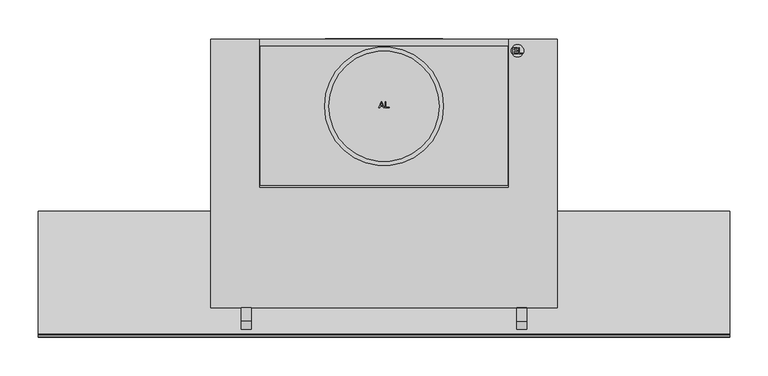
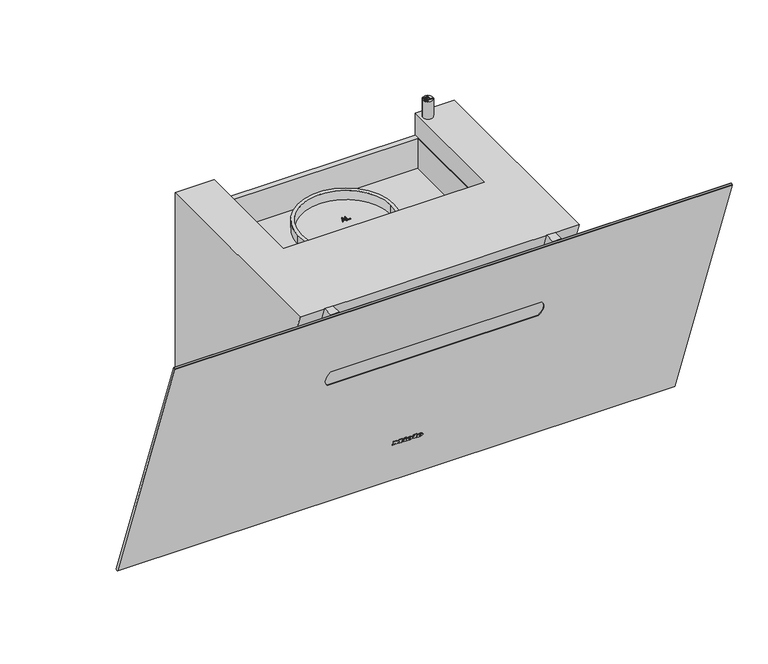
"""IFC4 building model written with IfcOpenShell, lengths in millimetres: proxy geometry, 12555220_TR_DAH1950_OBSW : 28H1950B_TR_12555220_DAH1950_OBSW."""

from ifc_helpers import new_model, si_unit, point, frame, frame_2d, origin, origin_with_axes, place, context, project, spatial, polyline, circle_curve, ellipse_curve, trimmed, segment, composite_curve, outline, extrude, faceted_brep, source, transform, mapped, element, save
from ifc_brep_helpers import plane_surface, cylinder_surface, revolved_surface, extruded_surface, advanced_brep


def specialty_equipment_6f24df0f(model_context):
    return source(origin(), model_context, "Body", "SolidModel", [
        extrude(outline(polyline([(0.0, 0.0), (0.968, 0.0), (0.968, 5.352), (0.0, 5.352), (0.0, 6.696), (3.52, 6.696), (3.52, 5.352), (2.56, 5.352), (2.56, 1.9488753), (6.136, 6.696), (9.728, 1.8807777), (9.728, 5.352), (8.744, 5.352), (8.744, 6.696), (15.128, 6.696), (15.128, 5.352), (14.112, 5.352), (14.112, 0.0), (15.128, 0.0), (15.128, -1.304), (10.256, -1.304), (7.92, 1.696), (5.576, -1.304), (0.0, -1.304), (0.0, 0.0)])), frame((-24.271984, -261.1380975, 82.2921818), z_axis=(0.0, 0.9396926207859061, 0.34202014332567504), x_axis=(1.0, 0.0, 0.0)), (0.0, 0.0, 1.0), 1.0),
        extrude(outline(polyline([(0.0, 0.0), (0.96, 0.0), (0.96, 5.352), (0.0, 5.352), (0.0, 6.696), (6.488, 6.696), (6.488, 5.352), (5.504, 5.352), (5.504, -1.304), (0.0, -1.304), (0.0, 0.0)])), frame((8.192016, -261.1380975, 82.2921818), z_axis=(0.0, 0.9396926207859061, 0.34202014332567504), x_axis=(1.0, 0.0, 0.0)), (0.0, 0.0, 1.0), 1.0),
        extrude(outline(polyline([(0.0, 0.0), (1.4315306, 0.0), (1.4390414, -2.9920869), (0.0109086, -2.9993294), (0.0, 0.0)])), frame((-6.351984, -261.4226582, 83.074006), z_axis=(0.0, 0.9396926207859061, 0.342020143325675), x_axis=(0.42472021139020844, 0.30963927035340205, -0.8507269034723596)), (0.0, 0.0, 1.0), 1.0),
        extrude(outline(polyline([(0.4933907, 2.4141097), (1.7898156, 3.022309), (2.1941493, 2.1604399), (5.1636141, 3.5535222), (4.7592805, 4.4153913), (5.9760369, 4.9862153), (8.6568708, -0.728194), (7.4401145, -1.299018), (7.0459741, -0.4588767), (2.7800843, -2.4601583), (0.4933907, 2.4141097)])), frame((-6.351984, -261.4226582, 83.074006), z_axis=(0.0, 0.9396926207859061, 0.342020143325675), x_axis=(0.42472021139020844, 0.30963927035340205, -0.8507269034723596)), (0.0, 0.0, 1.0), 1.0),
        advanced_brep(
        [(2.392016, -259.4964008, 77.7816572), (2.392016, -259.7727531, 78.5409288), (7.744016, -259.7727531, 78.5409288), (-1.567984, -259.7727531, 78.5409288), (0.632016, -258.8479306, 76.0), (7.608016, -259.4964008, 77.7816572), (5.192016, -259.4964008, 77.7816572), (3.288016, -259.1899507, 76.9396926), (2.392016, -260.1229817, 79.5031741), (2.392016, -260.4212233, 80.3225861), (3.760016, -260.4212233, 80.3225861), (3.760016, -260.1229817, 79.5031741), (2.392016, -258.5567082, 78.1236774), (3.288016, -258.2502581, 77.2817128), (5.192016, -258.5567082, 78.1236774), (7.608016, -258.5567082, 78.1236774), (0.632016, -257.908238, 76.3420201), (-1.567984, -258.8330604, 78.882949), (7.744016, -258.8330604, 78.882949), (2.392016, -258.8330604, 78.882949), (2.392016, -259.1832891, 79.8451942), (3.760016, -259.1832891, 79.8451942), (3.760016, -259.4815306, 80.6646062), (2.392016, -259.4815306, 80.6646062)],
        [
            (0, 1),
            (1, 2),
            (2, 3, ellipse_curve(frame((3.088016, -259.7727531, 78.5409288), z_axis=(0.0, -0.9396926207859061, -0.34202014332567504), x_axis=(-1.0, 0.0, 0.0)), 4.656, 3.848)),
            (3, 4, circle_curve(frame((1.5280596, -259.8657825, 78.7965252), z_axis=(0.0, -0.9396926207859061, -0.34202014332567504), x_axis=(0.0, 0.34202014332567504, -0.9396926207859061)), 3.1079688)),
            (4, 5, circle_curve(frame((2.9948096, -260.5881291, 80.7811561), z_axis=(0.0, -0.9396926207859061, -0.34202014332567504), x_axis=(0.0, 0.34202014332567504, -0.9396926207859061)), 5.6098607)),
            (5, 6),
            (6, 7, circle_curve(frame((3.6790748, -259.7508638, 78.4807885), z_axis=(0.0, 0.9396926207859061, 0.34202014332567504), x_axis=(0.0, 0.34202014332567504, -0.9396926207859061)), 1.6859795)),
            (7, 0, circle_curve(frame((3.288016, -259.4964008, 77.7816572), z_axis=(0.0, 0.9396926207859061, 0.34202014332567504), x_axis=(0.0, 0.34202014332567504, -0.9396926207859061)), 0.896)),
            (8, 9),
            (9, 10, circle_curve(frame((3.076016, -260.4212233, 80.3225861), z_axis=(0.0, 0.9396926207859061, 0.34202014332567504), x_axis=(0.0, 0.34202014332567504, -0.9396926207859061)), 0.684)),
            (10, 11),
            (11, 8),
            (12, 13, circle_curve(frame((3.288016, -258.5567082, 78.1236774), z_axis=(0.0, -0.9396926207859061, -0.34202014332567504), x_axis=(0.0, 0.34202014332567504, -0.9396926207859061)), 0.896)),
            (13, 14, circle_curve(frame((3.6790748, -258.8111712, 78.8228087), z_axis=(0.0, -0.9396926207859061, -0.34202014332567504), x_axis=(0.0, 0.34202014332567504, -0.9396926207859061)), 1.6859795)),
            (14, 15),
            (15, 16, circle_curve(frame((2.9948096, -259.6484365, 81.1231762), z_axis=(0.0, 0.9396926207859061, 0.34202014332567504), x_axis=(0.0, 0.34202014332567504, -0.9396926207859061)), 5.6098607)),
            (16, 17, circle_curve(frame((1.5280596, -258.9260899, 79.1385454), z_axis=(0.0, 0.9396926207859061, 0.34202014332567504), x_axis=(0.0, 0.34202014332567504, -0.9396926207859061)), 3.1079688)),
            (17, 18, ellipse_curve(frame((3.088016, -258.8330604, 78.882949), z_axis=(0.0, 0.9396926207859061, 0.34202014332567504), x_axis=(-1.0, 0.0, 0.0)), 4.656, 3.848)),
            (18, 19),
            (19, 12),
            (20, 21),
            (21, 22),
            (22, 23, circle_curve(frame((3.076016, -259.4815306, 80.6646062), z_axis=(0.0, -0.9396926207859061, -0.34202014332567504), x_axis=(0.0, 0.34202014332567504, -0.9396926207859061)), 0.684)),
            (23, 20),
            (0, 12),
            (19, 1),
            (18, 2),
            (5, 15),
            (14, 6),
            (17, 3),
            (13, 7),
            (16, 4),
            (8, 20),
            (23, 9),
            (22, 10),
            (21, 11),
        ],
        [
            plane_surface(frame((2.392016, -259.7727531, 78.5409288), z_axis=(0.0, -0.9396926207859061, -0.34202014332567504), x_axis=(0.0, -0.34202014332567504, 0.9396926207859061))),
            plane_surface(frame((2.392016, -258.8330604, 78.882949), z_axis=(0.0, 0.9396926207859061, 0.34202014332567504), x_axis=(0.0, 0.34202014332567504, -0.9396926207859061))),
            plane_surface(frame((2.392016, -259.4964008, 77.7816572), z_axis=(1.0, 0.0, 0.0), x_axis=(0.0, 0.9396926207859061, 0.34202014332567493))),
            plane_surface(frame((2.392016, -259.7727531, 78.5409288), z_axis=(0.0, 0.34202014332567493, -0.9396926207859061), x_axis=(0.0, 0.9396926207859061, 0.34202014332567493))),
            plane_surface(frame((7.608016, -259.4964008, 77.7816572), z_axis=(0.0, -0.34202014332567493, 0.9396926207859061), x_axis=(0.0, 0.9396926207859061, 0.34202014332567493))),
            extruded_surface(trimmed(ellipse_curve(frame((3.088016, -257.8933678, 79.2249691), z_axis=(0.0, -0.9396926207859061, -0.34202014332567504), x_axis=(-1.0, 0.0, 0.0)), 4.656, 3.848), [point((7.744016, -257.8933678, 79.2249691))], [point((-1.567984, -257.8933678, 79.2249691))], True, "CARTESIAN"), (0.0, -0.9396926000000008, -0.34202009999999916), 0.9999999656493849),
            revolved_surface(polyline([(3.6790748, -258.2345321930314, 77.23850622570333), (3.6790748, -259.1742248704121, 76.89648606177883)]), (3.6790748, -258.8111712, 78.8228087), (0.0, 0.9396926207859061, 0.34202014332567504)),
            revolved_surface(polyline([(3.288016, -258.25025810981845, 77.28171282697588), (3.288016, -259.1899507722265, 76.93969266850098)]), (3.288016, -258.5567082, 78.1236774), (0.0, 0.9396926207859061, 0.34202014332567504)),
            cylinder_surface(frame((1.5280596, -258.9260899, 79.1385454), z_axis=(0.0, -0.9396926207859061, -0.34202014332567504), x_axis=(0.0, 0.34202014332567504, -0.9396926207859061)), 3.1079688),
            cylinder_surface(frame((2.9948096, -259.6484365, 81.1231762), z_axis=(0.0, -0.9396926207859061, -0.34202014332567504), x_axis=(0.0, 0.34202014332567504, -0.9396926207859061)), 5.6098607),
            plane_surface(frame((2.392016, -260.1229817, 79.5031741), z_axis=(1.0, 0.0, 0.0), x_axis=(0.0, 0.9396926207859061, 0.34202014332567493))),
            revolved_surface(polyline([(3.076016, -259.2475888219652, 80.02185644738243), (3.076016, -260.1872814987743, 79.67983628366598)]), (3.076016, -259.4815306, 80.6646062), (0.0, 0.9396926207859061, 0.34202014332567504)),
            plane_surface(frame((3.760016, -260.4212233, 80.3225861), z_axis=(-1.0, 0.0, 0.0), x_axis=(0.0, 0.9396926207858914, 0.3420201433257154))),
            plane_surface(frame((3.760016, -260.1229817, 79.5031741), z_axis=(0.0, -0.34202014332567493, 0.9396926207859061), x_axis=(0.0, 0.9396926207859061, 0.34202014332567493))),
        ],
        [
            (0, [[1, 2, 3, 4, 5, 6, 7, 8], [9, 10, 11, 12]]),
            (1, [[13, 14, 15, 16, 17, 18, 19, 20], [21, 22, 23, 24]]),
            (2, [[-1, 25, -20, 26]]),
            (3, [[-2, -26, -19, 27]]),
            (4, [[-6, 28, -15, 29]]),
            (5, [[-3, -27, -18, 30]]),
            (6, [[-7, -29, -14, 31]]),
            (7, [[-8, -31, -13, -25]]),
            (8, [[-4, -30, -17, 32]]),
            (9, [[-5, -32, -16, -28]]),
            (10, [[-9, 33, -24, 34]]),
            (11, [[-10, -34, -23, 35]]),
            (12, [[-11, -35, -22, 36]]),
            (13, [[-12, -36, -21, -33]]),
        ],
    ),
        advanced_brep(
        [(19.088016, -259.4964008, 77.7816572), (19.088016, -259.7727531, 78.5409288), (24.440016, -259.7727531, 78.5409288), (15.128016, -259.7727531, 78.5409288), (17.328016, -258.8479306, 76.0), (24.304016, -259.4964008, 77.7816572), (21.888016, -259.4964008, 77.7816572), (19.984016, -259.1899507, 76.9396926), (19.088016, -260.1229817, 79.5031741), (19.088016, -260.4212233, 80.3225861), (20.456016, -260.4212233, 80.3225861), (20.456016, -260.1229817, 79.5031741), (19.088016, -258.5567082, 78.1236774), (19.984016, -258.2502581, 77.2817128), (21.888016, -258.5567082, 78.1236774), (24.304016, -258.5567082, 78.1236774), (17.328016, -257.908238, 76.3420201), (15.128016, -258.8330604, 78.882949), (24.440016, -258.8330604, 78.882949), (19.088016, -258.8330604, 78.882949), (19.088016, -259.1832891, 79.8451942), (20.456016, -259.1832891, 79.8451942), (20.456016, -259.4815306, 80.6646062), (19.088016, -259.4815306, 80.6646062)],
        [
            (0, 1),
            (1, 2),
            (2, 3, ellipse_curve(frame((19.784016, -259.7727531, 78.5409288), z_axis=(0.0, -0.9396926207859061, -0.34202014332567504), x_axis=(-1.0, 0.0, 0.0)), 4.656, 3.848)),
            (3, 4, circle_curve(frame((18.2240596, -259.8657825, 78.7965252), z_axis=(0.0, -0.9396926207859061, -0.34202014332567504), x_axis=(0.0, 0.34202014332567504, -0.9396926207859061)), 3.1079688)),
            (4, 5, circle_curve(frame((19.6908096, -260.5881291, 80.7811561), z_axis=(0.0, -0.9396926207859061, -0.34202014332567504), x_axis=(0.0, 0.34202014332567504, -0.9396926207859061)), 5.6098607)),
            (5, 6),
            (6, 7, circle_curve(frame((20.3750748, -259.7508638, 78.4807885), z_axis=(0.0, 0.9396926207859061, 0.34202014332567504), x_axis=(0.0, 0.34202014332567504, -0.9396926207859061)), 1.6859795)),
            (7, 0, circle_curve(frame((19.984016, -259.4964008, 77.7816572), z_axis=(0.0, 0.9396926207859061, 0.34202014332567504), x_axis=(0.0, 0.34202014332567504, -0.9396926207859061)), 0.896)),
            (8, 9),
            (9, 10, circle_curve(frame((19.772016, -260.4212233, 80.3225861), z_axis=(0.0, 0.9396926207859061, 0.34202014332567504), x_axis=(0.0, 0.34202014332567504, -0.9396926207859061)), 0.684)),
            (10, 11),
            (11, 8),
            (12, 13, circle_curve(frame((19.984016, -258.5567082, 78.1236774), z_axis=(0.0, -0.9396926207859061, -0.34202014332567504), x_axis=(0.0, 0.34202014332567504, -0.9396926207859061)), 0.896)),
            (13, 14, circle_curve(frame((20.3750748, -258.8111712, 78.8228087), z_axis=(0.0, -0.9396926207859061, -0.34202014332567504), x_axis=(0.0, 0.34202014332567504, -0.9396926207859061)), 1.6859795)),
            (14, 15),
            (15, 16, circle_curve(frame((19.6908096, -259.6484365, 81.1231762), z_axis=(0.0, 0.9396926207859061, 0.34202014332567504), x_axis=(0.0, 0.34202014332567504, -0.9396926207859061)), 5.6098607)),
            (16, 17, circle_curve(frame((18.2240596, -258.9260899, 79.1385454), z_axis=(0.0, 0.9396926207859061, 0.34202014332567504), x_axis=(0.0, 0.34202014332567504, -0.9396926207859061)), 3.1079688)),
            (17, 18, ellipse_curve(frame((19.784016, -258.8330604, 78.882949), z_axis=(0.0, 0.9396926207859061, 0.34202014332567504), x_axis=(-1.0, 0.0, 0.0)), 4.656, 3.848)),
            (18, 19),
            (19, 12),
            (20, 21),
            (21, 22),
            (22, 23, circle_curve(frame((19.772016, -259.4815306, 80.6646062), z_axis=(0.0, -0.9396926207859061, -0.34202014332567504), x_axis=(0.0, 0.34202014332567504, -0.9396926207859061)), 0.684)),
            (23, 20),
            (0, 12),
            (19, 1),
            (18, 2),
            (5, 15),
            (14, 6),
            (17, 3),
            (13, 7),
            (16, 4),
            (8, 20),
            (23, 9),
            (22, 10),
            (21, 11),
        ],
        [
            plane_surface(frame((19.088016, -259.7727531, 78.5409288), z_axis=(0.0, -0.9396926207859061, -0.34202014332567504), x_axis=(0.0, -0.34202014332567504, 0.9396926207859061))),
            plane_surface(frame((19.088016, -258.8330604, 78.882949), z_axis=(0.0, 0.9396926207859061, 0.34202014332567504), x_axis=(0.0, 0.34202014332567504, -0.9396926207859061))),
            plane_surface(frame((19.088016, -259.4964008, 77.7816572), z_axis=(1.0, 0.0, 0.0), x_axis=(0.0, 0.9396926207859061, 0.34202014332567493))),
            plane_surface(frame((19.088016, -259.7727531, 78.5409288), z_axis=(0.0, 0.34202014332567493, -0.9396926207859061), x_axis=(0.0, 0.9396926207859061, 0.34202014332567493))),
            plane_surface(frame((24.304016, -259.4964008, 77.7816572), z_axis=(0.0, -0.34202014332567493, 0.9396926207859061), x_axis=(0.0, 0.9396926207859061, 0.34202014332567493))),
            extruded_surface(trimmed(ellipse_curve(frame((19.784016, -257.8933678, 79.2249691), z_axis=(0.0, -0.9396926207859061, -0.34202014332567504), x_axis=(-1.0, 0.0, 0.0)), 4.656, 3.848), [point((24.440016, -257.8933678, 79.2249691))], [point((15.128016, -257.8933678, 79.2249691))], True, "CARTESIAN"), (0.0, -0.9396926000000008, -0.34202009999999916), 0.9999999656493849),
            revolved_surface(polyline([(20.3750748, -258.2345321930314, 77.23850622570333), (20.3750748, -259.1742248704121, 76.89648606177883)]), (20.3750748, -258.8111712, 78.8228087), (0.0, 0.9396926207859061, 0.34202014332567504)),
            revolved_surface(polyline([(19.984016, -258.25025810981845, 77.28171282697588), (19.984016, -259.1899507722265, 76.93969266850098)]), (19.984016, -258.5567082, 78.1236774), (0.0, 0.9396926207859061, 0.34202014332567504)),
            cylinder_surface(frame((18.2240596, -258.9260899, 79.1385454), z_axis=(0.0, -0.9396926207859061, -0.34202014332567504), x_axis=(0.0, 0.34202014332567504, -0.9396926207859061)), 3.1079688),
            cylinder_surface(frame((19.6908096, -259.6484365, 81.1231762), z_axis=(0.0, -0.9396926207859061, -0.34202014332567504), x_axis=(0.0, 0.34202014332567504, -0.9396926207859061)), 5.6098607),
            plane_surface(frame((19.088016, -260.1229817, 79.5031741), z_axis=(1.0, 0.0, 0.0), x_axis=(0.0, 0.9396926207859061, 0.34202014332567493))),
            revolved_surface(polyline([(19.772016, -259.2475888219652, 80.02185644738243), (19.772016, -260.1872814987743, 79.67983628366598)]), (19.772016, -259.4815306, 80.6646062), (0.0, 0.9396926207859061, 0.34202014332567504)),
            plane_surface(frame((20.456016, -260.4212233, 80.3225861), z_axis=(-1.0, 0.0, 0.0), x_axis=(0.0, 0.9396926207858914, 0.3420201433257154))),
            plane_surface(frame((20.456016, -260.1229817, 79.5031741), z_axis=(0.0, -0.34202014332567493, 0.9396926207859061), x_axis=(0.0, 0.9396926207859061, 0.34202014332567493))),
        ],
        [
            (0, [[1, 2, 3, 4, 5, 6, 7, 8], [9, 10, 11, 12]]),
            (1, [[13, 14, 15, 16, 17, 18, 19, 20], [21, 22, 23, 24]]),
            (2, [[-1, 25, -20, 26]]),
            (3, [[-2, -26, -19, 27]]),
            (4, [[-6, 28, -15, 29]]),
            (5, [[-3, -27, -18, 30]]),
            (6, [[-7, -29, -14, 31]]),
            (7, [[-8, -31, -13, -25]]),
            (8, [[-4, -30, -17, 32]]),
            (9, [[-5, -32, -16, -28]]),
            (10, [[-9, 33, -24, 34]]),
            (11, [[-10, -34, -23, 35]]),
            (12, [[-11, -35, -22, 36]]),
            (13, [[-12, -36, -21, -33]]),
        ],
    ),
        advanced_brep(
        [(-198.5, -231.2422284, 80.5173231), (-198.5, -240.9843308, 107.2835295), (-198.5, -235.8312261, 109.4708926), (-198.5, -225.8887113, 82.1540576), (-198.5, -250.514978, 76.8365225), (-198.5, -258.1140866, 97.7149017), (-198.5, -258.4754112, 96.7430581), (-198.5, -251.4164577, 77.3487429), (-198.5, -254.9459345, 87.0459005), (-198.5, -230.9198317, 95.7906867)],
        [
            (0, 1, circle_curve(frame((-198.5, -236.1132796, 93.9004263), z_axis=(0.0, 0.9396926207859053, 0.3420201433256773), x_axis=(0.0, -0.3420201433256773, 0.9396926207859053)), 14.2420009)),
            (1, 2),
            (2, 3, circle_curve(frame((-198.5, -230.8599687, 95.8124751), z_axis=(0.0, -0.9396926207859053, -0.3420201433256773), x_axis=(0.0, -0.3420201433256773, 0.9396926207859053)), 14.5349844)),
            (3, 0),
            (4, 5, circle_curve(frame((-198.5, -254.3145323, 87.2757121), z_axis=(0.0, 0.9396926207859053, 0.3420201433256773), x_axis=(0.0, -0.3420201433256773, 0.9396926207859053)), 11.1091535)),
            (5, 1),
            (0, 4),
            (6, 7, circle_curve(frame((-198.5, -254.9459345, 87.0459005), z_axis=(0.0, 0.9396926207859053, 0.3420201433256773), x_axis=(0.0, -0.3420201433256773, 0.9396926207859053)), 10.3194996)),
            (7, 4),
            (4, 5, circle_curve(frame((-198.5, -254.3145323, 87.2757121), z_axis=(0.0, -0.9396926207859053, -0.3420201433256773), x_axis=(0.0, -0.3420201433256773, 0.9396926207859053)), 11.1091535)),
            (5, 6),
            (8, 7),
            (6, 8),
            (2, 9),
            (9, 3),
            (2, 3, circle_curve(frame((-198.5, -230.9198317, 95.7906867), z_axis=(0.0, 0.9396926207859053, 0.3420201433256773), x_axis=(0.0, -0.3420201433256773, 0.9396926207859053)), 14.535124)),
            (1, 0, circle_curve(frame((-198.5, -236.1132796, 93.9004263), z_axis=(0.0, 0.9396926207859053, 0.3420201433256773), x_axis=(0.0, -0.3420201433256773, 0.9396926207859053)), 14.2420009)),
            (7, 6, circle_curve(frame((-198.5, -254.9459345, 87.0459005), z_axis=(0.0, 0.9396926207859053, 0.3420201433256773), x_axis=(0.0, -0.3420201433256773, 0.9396926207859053)), 10.3194996)),
        ],
        [
            revolved_surface(polyline([(-198.5, -235.8312261, 109.4708926), (-198.5, -240.9843308, 107.2835295)]), (-198.5, -255.2773841, 86.9252627), (0.0, -0.9396926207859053, -0.3420201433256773)),
            revolved_surface(polyline([(-198.5, -240.9843308, 107.2835295), (-198.5, -258.1140866, 97.7149017)]), (-198.5, -255.2773841, 86.9252627), (0.0, -0.9396926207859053, -0.3420201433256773)),
            revolved_surface(polyline([(-198.5, -258.1140866, 97.7149017), (-198.5, -258.4754112, 96.7430581)]), (-198.5, -255.2773841, 86.9252627), (0.0, -0.9396926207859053, -0.3420201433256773)),
            plane_surface(frame((-198.5, -254.9459345, 87.0459005), z_axis=(0.0, -0.9396926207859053, -0.3420201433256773), x_axis=(0.0, -0.3420201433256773, 0.9396926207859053))),
            plane_surface(frame((-198.5, -230.9198317, 95.7906867), z_axis=(0.0, 0.9396926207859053, 0.3420201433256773), x_axis=(0.0, -0.3420201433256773, 0.9396926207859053))),
        ],
        [
            (0, [[1, 2, 3, 4]]),
            (1, [[5, 6, -1, 7]]),
            (2, [[8, 9, 10, 11]]),
            (3, [[12, -8, 13]]),
            (4, [[-3, 14, 15]]),
            (4, [[16, -15, -14]]),
            (0, [[17, -4, -16, -2]]),
            (1, [[-10, -7, -17, -6]]),
            (2, [[18, -11, -5, -9]]),
            (3, [[-13, -18, -12]]),
        ],
    ),
        advanced_brep(
        [(-198.5, -262.8067778, 105.2732379), (-198.5, -249.4001153, 68.4387353), (-198.5, -252.3199878, 80.8696014), (-198.5, -257.0531232, 93.8737841), (-198.5, -250.699917, 68.232867), (-198.5, -263.9348133, 104.5954458), (-198.5, -257.3173652, 86.4141564), (-198.5, -254.6865555, 87.3716928)],
        [
            (0, 1, circle_curve(frame((-198.5, -256.1034466, 86.8559866), z_axis=(0.0, 0.9396926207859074, 0.34202014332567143), x_axis=(0.0, -0.34202014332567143, 0.9396926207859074)), 19.5992294)),
            (1, 2),
            (2, 3, circle_curve(frame((-198.5, -254.6865555, 87.3716928), z_axis=(0.0, -0.9396926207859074, -0.34202014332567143), x_axis=(0.0, -0.34202014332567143, 0.9396926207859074)), 6.9193811)),
            (3, 0),
            (1, 0, circle_curve(frame((-198.5, -256.1034466, 86.8559866), z_axis=(0.0, 0.9396926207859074, 0.34202014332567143), x_axis=(0.0, -0.34202014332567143, 0.9396926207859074)), 19.5992294)),
            (3, 2, circle_curve(frame((-198.5, -254.6865555, 87.3716928), z_axis=(0.0, -0.9396926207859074, -0.34202014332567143), x_axis=(0.0, -0.34202014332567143, 0.9396926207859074)), 6.9193811)),
            (4, 5, circle_curve(frame((-198.5, -257.3173652, 86.4141564), z_axis=(0.0, 0.9396926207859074, 0.34202014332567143), x_axis=(0.0, -0.34202014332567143, 0.9396926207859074)), 19.3481241)),
            (5, 0),
            (1, 4),
            (5, 4, circle_curve(frame((-198.5, -257.3173652, 86.4141564), z_axis=(0.0, 0.9396926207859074, 0.34202014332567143), x_axis=(0.0, -0.34202014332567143, 0.9396926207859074)), 19.3481241)),
            (6, 5),
            (4, 6),
            (3, 7),
            (7, 2),
        ],
        [
            revolved_surface(polyline([(-198.5, -257.0531232, 93.8737841), (-198.5, -262.8067778, 105.2732379)]), (-198.5, -254.6865555, 87.3716928), (0.0, -0.9396926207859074, -0.34202014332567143)),
            revolved_surface(polyline([(-198.5, -262.8067778, 105.2732379), (-198.5, -263.9348133, 104.5954458)]), (-198.5, -254.6865555, 87.3716928), (0.0, -0.9396926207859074, -0.34202014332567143)),
            plane_surface(frame((-198.5, -257.3173652, 86.4141564), z_axis=(0.0, -0.9396926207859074, -0.34202014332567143), x_axis=(0.0, -0.34202014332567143, 0.9396926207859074))),
            plane_surface(frame((-198.5, -254.6865555, 87.3716928), z_axis=(0.0, 0.9396926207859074, 0.34202014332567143), x_axis=(0.0, -0.34202014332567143, 0.9396926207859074))),
        ],
        [
            (0, [[1, 2, 3, 4]]),
            (0, [[5, -4, 6, -2]]),
            (1, [[7, 8, -5, 9]]),
            (1, [[10, -9, -1, -8]]),
            (2, [[11, -7, 12]]),
            (2, [[-12, -10, -11]]),
            (3, [[-6, 13, 14]]),
            (3, [[-3, -14, -13]]),
        ],
    ),
        advanced_brep(
        [(198.5, -225.9091808, 82.1477994), (198.5, -235.8509293, 109.4625291), (198.5, -240.9843308, 107.2835295), (198.5, -231.2422284, 80.5173231), (198.5, -258.1140866, 97.7149017), (198.5, -250.514978, 76.8365225), (198.5, -230.9018417, 95.8650227), (198.5, -258.4754112, 96.7430581), (198.5, -251.4164577, 77.3487429), (198.5, -254.9459345, 87.0459005)],
        [
            (0, 1, circle_curve(frame((198.5, -230.8800551, 95.8051643), z_axis=(0.0, -0.9396926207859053, -0.3420201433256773), x_axis=(0.0, -0.3420201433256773, 0.9396926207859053)), 14.5338641)),
            (1, 2),
            (2, 3, circle_curve(frame((198.5, -236.1132796, 93.9004263), z_axis=(0.0, 0.9396926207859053, 0.3420201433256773), x_axis=(0.0, -0.3420201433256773, 0.9396926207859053)), 14.2420009)),
            (3, 0),
            (2, 4),
            (4, 5, circle_curve(frame((198.5, -254.3145323, 87.2757121), z_axis=(0.0, 0.9396926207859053, 0.3420201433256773), x_axis=(0.0, -0.3420201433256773, 0.9396926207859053)), 11.1091535)),
            (5, 3),
            (6, 1),
            (0, 6),
            (0, 1, circle_curve(frame((198.5, -230.8800551, 95.8051643), z_axis=(0.0, 0.9396926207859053, 0.3420201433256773), x_axis=(0.0, -0.3420201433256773, 0.9396926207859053)), 14.5338641)),
            (3, 2, circle_curve(frame((198.5, -236.1132796, 93.9004263), z_axis=(0.0, 0.9396926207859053, 0.3420201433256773), x_axis=(0.0, -0.3420201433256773, 0.9396926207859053)), 14.2420009)),
            (5, 4, circle_curve(frame((198.5, -254.3145323, 87.2757121), z_axis=(0.0, 0.9396926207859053, 0.3420201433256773), x_axis=(0.0, -0.3420201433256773, 0.9396926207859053)), 11.1091535)),
            (4, 7),
            (7, 8, circle_curve(frame((198.5, -254.9459345, 87.0459005), z_axis=(0.0, 0.9396926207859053, 0.3420201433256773), x_axis=(0.0, -0.3420201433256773, 0.9396926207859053)), 10.3194996)),
            (8, 5),
            (8, 7, circle_curve(frame((198.5, -254.9459345, 87.0459005), z_axis=(0.0, 0.9396926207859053, 0.3420201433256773), x_axis=(0.0, -0.3420201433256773, 0.9396926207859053)), 10.3194996)),
            (7, 9),
            (9, 8),
        ],
        [
            revolved_surface(polyline([(198.5, -240.9843308, 107.2835295), (198.5, -235.8509293, 109.4625291)]), (198.5, -255.2773841, 86.9252627), (0.0, 0.9396926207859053, 0.3420201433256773)),
            revolved_surface(polyline([(198.5, -258.1140866, 97.7149017), (198.5, -240.9843308, 107.2835295)]), (198.5, -255.2773841, 86.9252627), (0.0, 0.9396926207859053, 0.3420201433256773)),
            plane_surface(frame((198.5, -230.8800551, 95.8051643), z_axis=(0.0, 0.9396926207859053, 0.3420201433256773), x_axis=(0.0, -0.3420201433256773, 0.9396926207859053))),
            revolved_surface(polyline([(198.5, -258.4754112, 96.7430581), (198.5, -258.1140866, 97.7149017)]), (198.5, -255.2773841, 86.9252627), (0.0, 0.9396926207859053, 0.3420201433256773)),
            plane_surface(frame((198.5, -254.9459345, 87.0459005), z_axis=(0.0, -0.9396926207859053, -0.3420201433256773), x_axis=(0.0, -0.3420201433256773, 0.9396926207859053))),
        ],
        [
            (0, [[1, 2, 3, 4]]),
            (1, [[-3, 5, 6, 7]]),
            (2, [[8, -1, 9]]),
            (2, [[-9, 10, -8]]),
            (0, [[-10, -4, 11, -2]]),
            (1, [[-11, -7, 12, -5]]),
            (3, [[-6, 13, 14, 15]]),
            (3, [[-12, -15, 16, -13]]),
            (4, [[-14, 17, 18]]),
            (4, [[-16, -18, -17]]),
        ],
    ),
        advanced_brep(
        [(198.5, -252.3199878, 80.8696014), (198.5, -257.0531232, 93.8737841), (198.5, -262.8067778, 105.2732379), (198.5, -249.4001153, 68.4387353), (198.5, -263.9348133, 104.5954458), (198.5, -250.699917, 68.232867), (198.5, -257.3173652, 86.4141564), (198.5, -254.6865555, 87.3716928)],
        [
            (0, 1, circle_curve(frame((198.5, -254.6865555, 87.3716928), z_axis=(0.0, -0.9396926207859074, -0.34202014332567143), x_axis=(0.0, -0.34202014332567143, 0.9396926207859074)), 6.9193811)),
            (1, 2),
            (2, 3, circle_curve(frame((198.5, -256.1034466, 86.8559866), z_axis=(0.0, 0.9396926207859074, 0.34202014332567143), x_axis=(0.0, -0.34202014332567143, 0.9396926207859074)), 19.5992294)),
            (3, 0),
            (1, 0, circle_curve(frame((198.5, -254.6865555, 87.3716928), z_axis=(0.0, -0.9396926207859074, -0.34202014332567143), x_axis=(0.0, -0.34202014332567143, 0.9396926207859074)), 6.9193811)),
            (3, 2, circle_curve(frame((198.5, -256.1034466, 86.8559866), z_axis=(0.0, 0.9396926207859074, 0.34202014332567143), x_axis=(0.0, -0.34202014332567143, 0.9396926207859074)), 19.5992294)),
            (2, 4),
            (4, 5, circle_curve(frame((198.5, -257.3173652, 86.4141564), z_axis=(0.0, 0.9396926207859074, 0.34202014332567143), x_axis=(0.0, -0.34202014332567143, 0.9396926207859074)), 19.3481241)),
            (5, 3),
            (5, 4, circle_curve(frame((198.5, -257.3173652, 86.4141564), z_axis=(0.0, 0.9396926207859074, 0.34202014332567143), x_axis=(0.0, -0.34202014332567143, 0.9396926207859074)), 19.3481241)),
            (4, 6),
            (6, 5),
            (7, 1),
            (0, 7),
        ],
        [
            revolved_surface(polyline([(198.5, -262.8067778, 105.2732379), (198.5, -257.0531232, 93.8737841)]), (198.5, -254.6865555, 87.3716928), (0.0, 0.9396926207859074, 0.34202014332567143)),
            revolved_surface(polyline([(198.5, -263.9348133, 104.5954458), (198.5, -262.8067778, 105.2732379)]), (198.5, -254.6865555, 87.3716928), (0.0, 0.9396926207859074, 0.34202014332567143)),
            plane_surface(frame((198.5, -257.3173652, 86.4141564), z_axis=(0.0, -0.9396926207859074, -0.34202014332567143), x_axis=(0.0, -0.34202014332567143, 0.9396926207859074))),
            plane_surface(frame((198.5, -254.6865555, 87.3716928), z_axis=(0.0, 0.9396926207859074, 0.34202014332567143), x_axis=(0.0, -0.34202014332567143, 0.9396926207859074))),
        ],
        [
            (0, [[1, 2, 3, 4]]),
            (0, [[5, -4, 6, -2]]),
            (1, [[-3, 7, 8, 9]]),
            (1, [[-6, -9, 10, -7]]),
            (2, [[-8, 11, 12]]),
            (2, [[-10, -12, -11]]),
            (3, [[13, -1, 14]]),
            (3, [[-14, -5, -13]]),
        ],
    ),
        extrude(outline(polyline([(-377.2541471, 415.9959153), (-366.2530147, 420.0), (-348.8949883, 420.0), (-315.0686278, 327.0628384), (-321.2276447, 324.8211395), (-334.9582954, 325.4920509), (-347.6637142, 334.6968691), (-377.2541471, 415.9959153)])), frame((-185.7167767, 0.0, 0.0), z_axis=(1.0, 0.0, 0.0), x_axis=(0.0, 1.0, 0.0)), (0.0, 0.0, 1.0), 13.4088513),
        extrude(outline(polyline([(-377.2541471, 415.9959153), (-366.2530147, 420.0), (-348.8949883, 420.0), (-315.0686278, 327.0628384), (-321.2276447, 324.8211395), (-334.9582954, 325.4920509), (-347.6637142, 334.6968691), (-377.2541471, 415.9959153)])), frame((172.3079253, 0.0, 0.0), z_axis=(1.0, 0.0, 0.0), x_axis=(0.0, 1.0, 0.0)), (0.0, 0.0, 1.0), 13.4088513),
        advanced_brep(
        [(449.0, -387.3899893, 432.0882368), (449.0, -387.1323401, 432.8365045), (-449.0, -387.1323401, 432.8365045), (-449.0, -387.3899893, 432.0882368), (449.0, -227.0596169, -8.4158411), (449.0, -226.3696341, -8.8142029), (449.0, -223.5613092, -7.7920563), (449.0, -223.2772642, -7.0520936), (449.0, -383.5944926, 433.4158714), (449.0, -384.310791, 433.8634644), (-449.0, -384.310791, 433.8634644), (-449.0, -383.5944926, 433.4158714), (-449.0, -223.2772642, -7.0520936), (-449.0, -223.5613092, -7.7920563), (-449.0, -226.3696341, -8.8142029), (-449.0, -227.0596169, -8.4158411), (-170.0000153, -329.0580322, 271.8225017), (-170.0000153, -339.664028, 300.9622357), (169.9999847, -339.664028, 300.9622357), (169.9999847, -329.0580322, 271.8225017), (-170.0000153, -338.7237973, 301.3044517), (-170.0000153, -328.1178015, 272.1647177), (169.9999847, -328.1178015, 272.1647177), (169.9999847, -338.7237973, 301.3044517)],
        [
            (0, 1),
            (1, 2),
            (2, 3),
            (3, 0),
            (0, 4),
            (4, 5),
            (5, 6),
            (6, 7),
            (7, 8),
            (8, 9),
            (9, 1),
            (2, 10),
            (10, 11),
            (11, 12),
            (12, 13),
            (13, 14),
            (14, 15),
            (15, 3),
            (15, 4),
            (16, 17, circle_curve(frame((-150.89824, -334.3610301, 286.3923687), z_axis=(0.0, 0.9396926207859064, 0.3420201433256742), x_axis=(1.0, 0.0, 0.0)), 24.6024517)),
            (17, 18),
            (18, 19, circle_curve(frame((150.8956421, -334.3610301, 286.3923687), z_axis=(0.0, 0.9396926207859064, 0.3420201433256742), x_axis=(1.0, 0.0, 0.0)), 24.6044451)),
            (19, 16),
            (14, 5),
            (13, 6),
            (12, 7),
            (11, 8),
            (10, 9),
            (20, 21, circle_curve(frame((-150.89824, -333.4207994, 286.7345847), z_axis=(0.0, -0.9396926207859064, -0.3420201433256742), x_axis=(1.0, 0.0, 0.0)), 24.6024517)),
            (21, 22),
            (22, 23, circle_curve(frame((150.8956421, -333.4207994, 286.7345847), z_axis=(0.0, -0.9396926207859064, -0.3420201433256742), x_axis=(1.0, 0.0, 0.0)), 24.6044451)),
            (23, 20),
            (20, 17),
            (16, 21),
            (19, 22),
            (18, 23),
        ],
        [
            plane_surface(frame((449.0, -387.1323401, 432.8365045), z_axis=(0.0, -0.9455185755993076, 0.32556815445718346), x_axis=(-1.0, 0.0, 0.0))),
            plane_surface(frame((449.0, -387.1323401, 432.8365045), z_axis=(1.0, 0.0, 0.0), x_axis=(0.0, -0.32556815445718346, -0.9455185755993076))),
            plane_surface(frame((-449.0, -387.1323401, 432.8365045), z_axis=(-1.0, 0.0, 0.0), x_axis=(0.0, 0.32556815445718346, 0.9455185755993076))),
            plane_surface(frame((449.0, -387.3899893, 432.0882368), z_axis=(0.0, -0.939692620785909, -0.34202014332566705), x_axis=(-1.0, 0.0, 0.0))),
            plane_surface(frame((449.0, -227.0596169, -8.4158411), z_axis=(0.0, -0.49999999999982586, -0.8660254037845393), x_axis=(-1.0, 0.0, 0.0))),
            plane_surface(frame((449.0, -226.3696341, -8.8142029), z_axis=(0.0, 0.34202014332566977, -0.939692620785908), x_axis=(-1.0, 0.0, 0.0))),
            plane_surface(frame((449.0, -223.5613092, -7.7920563), z_axis=(0.0, 0.9335804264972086, -0.35836794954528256), x_axis=(-1.0, 0.0, 0.0))),
            plane_surface(frame((449.0, -223.2772642, -7.0520936), z_axis=(0.0, 0.9396926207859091, 0.3420201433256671), x_axis=(-1.0, 0.0, 0.0))),
            plane_surface(frame((449.0, -383.5944926, 433.4158714), z_axis=(0.0, 0.5299192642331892, 0.8480480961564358), x_axis=(-1.0, 0.0, 0.0))),
            plane_surface(frame((449.0, -384.310791, 433.8634644), z_axis=(0.0, -0.3420201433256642, 0.9396926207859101), x_axis=(-1.0, 0.0, 0.0))),
            plane_surface(frame((-126.2957883, -333.4207994, 286.7345847), z_axis=(0.0, -0.9396926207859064, -0.3420201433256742), x_axis=(0.0, 0.3420201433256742, -0.9396926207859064))),
            revolved_surface(polyline([(-126.29578829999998, -334.3610301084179, 286.3923687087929), (-126.29578829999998, -333.4207993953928, 286.7345847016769)]), (-150.89824, -333.4207994, 286.7345847), (0.0, -0.9396926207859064, -0.3420201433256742)),
            plane_surface(frame((-170.0000153, -333.9337198, 270.0478966), z_axis=(0.0, -0.3420201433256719, 0.9396926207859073), x_axis=(0.0, 0.9396926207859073, 0.3420201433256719))),
            revolved_surface(polyline([(175.5000872, -334.3610301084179, 286.3923687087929), (175.5000872, -333.4207993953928, 286.7345847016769)]), (150.8956421, -333.4207994, 286.7345847), (0.0, -0.9396926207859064, -0.3420201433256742)),
            plane_surface(frame((169.9999847, -344.5397156, 299.1876306), z_axis=(0.0, 0.3420201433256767, -0.9396926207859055), x_axis=(0.0, 0.9396926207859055, 0.3420201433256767))),
        ],
        [
            (0, [[1, 2, 3, 4]]),
            (1, [[-1, 5, 6, 7, 8, 9, 10, 11]]),
            (2, [[12, 13, 14, 15, 16, 17, 18, -3]]),
            (3, [[-5, -4, -18, 19], [20, 21, 22, 23]]),
            (4, [[-6, -19, -17, 24]]),
            (5, [[-7, -24, -16, 25]]),
            (6, [[-8, -25, -15, 26]]),
            (7, [[-9, -26, -14, 27]]),
            (8, [[-10, -27, -13, 28]]),
            (9, [[-11, -28, -12, -2]]),
            (10, [[29, 30, 31, 32]]),
            (11, [[-29, 33, -20, 34]]),
            (12, [[-30, -34, -23, 35]]),
            (13, [[-31, -35, -22, 36]]),
            (14, [[-32, -36, -21, -33]]),
        ],
    ),
        faceted_brep([(225.0000193, -349.0, 420.0), (225.0000193, -196.2332597, 0.0), (225.0000193, 0.0, 0.0), (225.0000193, 0.0, 420.0), (-225.0000193, -349.0, 420.0), (-225.0000193, 0.0, 420.0), (-225.0000193, 0.0, 0.0), (-225.0000193, -196.2332597, 0.0), (176.5, -48.0, 0.0), (-176.5, -48.0, 0.0), (-176.5, -181.0, 0.0), (176.5, -181.0, 0.0), (125.0, -12.0, 0.0), (-125.0, -12.0, 0.0), (-125.0, -38.0, 0.0), (125.0, -38.0, 0.0), (-162.2229137, 0.0, 420.0), (-162.2229137, 0.0, 382.5), (162.2229137, 0.0, 382.5), (162.2229137, 0.0, 420.0), (-160.9556997, -9.0, 332.0), (160.9556997, -9.0, 332.0), (160.9556997, -9.0, 382.5), (-160.9556997, -9.0, 382.5), (-160.9556997, -190.0399284, 332.0), (-160.9556997, -190.0399284, 382.5), (160.9556997, -190.0399284, 332.0), (160.9556997, -190.0399284, 382.5), (176.5, -48.0, 11.0), (-176.5, -48.0, 11.0), (125.0, -12.0, 11.0), (-125.0, -12.0, 11.0), (162.2229137, -193.2332597, 420.0), (-162.2229137, -193.2332597, 420.0), (176.5, -181.0, 11.0), (-176.5, -181.0, 11.0), (125.0, -38.0, 11.0), (-125.0, -38.0, 11.0), (162.2229137, -193.2332597, 382.5), (-162.2229137, -193.2332597, 382.5)], [[[0, 1, 2, 3]], [[4, 5, 6, 7]], [[1, 0, 4, 7]], [[2, 1, 7, 6], [8, 9, 10, 11], [12, 13, 14, 15]], [[3, 2, 6, 5, 16, 17, 18, 19]], [[20, 21, 22, 23]], [[24, 20, 23, 25]], [[21, 26, 27, 22]], [[28, 29, 9, 8]], [[30, 31, 13, 12]], [[0, 3, 19, 32, 33, 16, 5, 4]], [[21, 20, 24, 26]], [[26, 24, 25, 27]], [[28, 34, 35, 29]], [[29, 35, 10, 9]], [[35, 34, 11, 10]], [[34, 28, 8, 11]], [[30, 36, 37, 31]], [[31, 37, 14, 13]], [[37, 36, 15, 14]], [[36, 30, 12, 15]], [[32, 38, 39, 33]], [[39, 38, 18, 17], [23, 22, 27, 25]], [[38, 32, 19, 18]], [[33, 39, 17, 16]]]),
        extrude(outline(polyline([(125.0, -12.0), (125.0, -38.0), (-125.0, -38.0), (-125.0, -12.0), (125.0, -12.0)]), holes=[polyline([(-119.0, -31.2), (119.0, -31.2), (119.0, -18.8), (-119.0, -18.8), (-119.0, -31.2)])]), origin_with_axes(), (0.0, 0.0, 1.0), 11.0),
        extrude(outline(polyline([(119.0, -18.8), (119.0, -31.2), (-119.0, -31.2), (-119.0, -18.8), (119.0, -18.8)])), origin_with_axes(), (0.0, 0.0, 1.0), 11.0),
        extrude(outline(polyline([(176.5, -48.0), (176.5, -181.0), (-176.5, -181.0), (-176.5, -48.0), (176.5, -48.0)]), holes=[polyline([(167.5, -57.0), (-167.5, -57.0), (-167.5, -172.0), (167.5, -172.0), (167.5, -57.0)])]), origin_with_axes(), (0.0, 0.0, 1.0), 11.0),
        extrude(outline(polyline([(167.5, -57.0), (167.5, -172.0), (-167.5, -172.0), (-167.5, -57.0), (167.5, -57.0)])), frame((0.0, 0.0, 1.0), z_axis=(0.0, 0.0, 1.0), x_axis=(1.0, 0.0, 0.0)), (0.0, 0.0, 1.0), 10.0),
        extrude(outline(polyline([(-167.5, -98.0), (-124.5000193, -98.0), (-124.5000193, -131.0), (-167.5, -131.0), (-167.5, -98.0)]), holes=[polyline([(-131.0000193, -104.5), (-160.0000193, -104.5), (-160.0000193, -124.5), (-131.0000193, -124.5), (-131.0000193, -104.5)])]), origin_with_axes(), (0.0, 0.0, 1.0), 1.0),
        extrude(outline(polyline([(-131.0000193, -104.5), (-131.0000193, -124.5), (-140.0000193, -124.5), (-140.0000193, -104.5), (-131.0000193, -104.5)])), origin_with_axes(), (0.0, 0.0, 1.0), 1.0),
        extrude(outline(composite_curve([segment(trimmed(circle_curve(frame_2d((0.0, -86.9971466)), 77.2963157), [point((-77.2963157, -86.9971466))], [point((77.2963157, -86.9971466))], False, "CARTESIAN"), True, "CONTINUOUS"), segment(trimmed(circle_curve(frame_2d((0.0, -86.9971466)), 77.2963157), [point((77.2963157, -86.9971466))], [point((-77.2963157, -86.9971466))], False, "CARTESIAN"), True, "CONTINUOUS")], self_intersect=False), holes=[composite_curve([segment(trimmed(circle_curve(frame_2d((0.0, -86.9971466)), 71.617422), [point((-71.617422, -86.9971466))], [point((71.617422, -86.9971466))], True, "CARTESIAN"), True, "CONTINUOUS"), segment(trimmed(circle_curve(frame_2d((0.0, -86.9971466)), 71.617422), [point((71.617422, -86.9971466))], [point((-71.617422, -86.9971466))], True, "CARTESIAN"), True, "CONTINUOUS")], self_intersect=False)]), frame((0.0, 0.0, 332.0), z_axis=(0.0, 0.0, 1.0), x_axis=(1.0, 0.0, 0.0)), (0.0, 0.0, 1.0), 15.9326282),
        extrude(outline(polyline([(-6.835738, -89.2416424), (-3.627807, -81.2051375), (-2.7723587, -81.2051375), (0.4336102, -89.2416424), (-0.6278519, -89.2416424), (-1.5460854, -86.7302346), (-4.8580044, -86.7302346), (-5.7762378, -89.2416424), (-6.835738, -89.2416424)]), holes=[polyline([(-4.4891414, -85.7256715), (-1.9129864, -85.7256715), (-2.6389402, -83.7498999), (-3.2020449, -82.2097006), (-3.7023644, -83.5772407), (-4.4891414, -85.7256715)])]), frame((0.0, 0.0, 347.9326282), z_axis=(0.0, 0.0, 1.0), x_axis=(1.0, 0.0, 0.0)), (0.0, 0.0, 1.0), 1.0),
        extrude(outline(polyline([(1.5068447, -89.2416424), (1.5068447, -81.2051375), (2.5114078, -81.2051375), (2.5114078, -88.2370793), (6.5296602, -88.2370793), (6.5296602, -89.2416424), (1.5068447, -89.2416424)])), frame((0.0, 0.0, 347.9326282), z_axis=(0.0, 0.0, 1.0), x_axis=(1.0, 0.0, 0.0)), (0.0, 0.0, 1.0), 1.0),
        extrude(outline(composite_curve([segment(trimmed(circle_curve(frame_2d((192.5519409, 0.0)), 76.1990432), [point((192.5519409, -76.1990432))], [point((192.5519409, 76.1990432))], False, "CARTESIAN"), True, "CONTINUOUS"), segment(trimmed(circle_curve(frame_2d((192.5519409, 0.0)), 76.1990432), [point((192.5519409, 76.1990432))], [point((192.5519409, -76.1990432))], False, "CARTESIAN"), True, "CONTINUOUS")], self_intersect=False)), frame((0.0, 0.0, 0.0), z_axis=(0.0, 1.0, 0.0), x_axis=(0.0, 0.0, 1.0)), (0.0, 0.0, 1.0), 1.0),
        extrude(outline(composite_curve([segment(trimmed(circle_curve(frame_2d((173.4999807, -15.0000005)), 8.0), [point((165.4999807, -15.0000005))], [point((181.4999807, -15.0000005))], False, "CARTESIAN"), True, "CONTINUOUS"), segment(trimmed(circle_curve(frame_2d((173.4999807, -15.0000005)), 8.0), [point((181.4999807, -15.0000005))], [point((165.4999807, -15.0000005))], False, "CARTESIAN"), True, "CONTINUOUS")], self_intersect=False)), frame((0.0, 0.0, 420.0), z_axis=(0.0, 0.0, 1.0), x_axis=(1.0, 0.0, 0.0)), (0.0, 0.0, 1.0), 30.0),
        extrude(outline(polyline([(167.5981725, -19.0000005), (167.5981725, -10.9634957), (173.3744104, -10.9634957), (173.3744104, -11.9680588), (168.6027356, -11.9680588), (168.6027356, -14.3538961), (173.1232696, -14.3538961), (173.1232696, -15.3584592), (168.6027356, -15.3584592), (168.6027356, -17.9954374), (173.4999807, -17.9954374), (173.4999807, -19.0000005), (167.5981725, -19.0000005)])), frame((0.0, 0.0, 450.0), z_axis=(0.0, 0.0, 1.0), x_axis=(1.0, 0.0, 0.0)), (0.0, 0.0, 1.0), 1.0),
        extrude(outline(polyline([(175.0068254, -19.0000005), (175.0068254, -10.9634957), (176.0113885, -10.9634957), (176.0113885, -17.9954374), (180.0296409, -17.9954374), (180.0296409, -19.0000005), (175.0068254, -19.0000005)])), frame((0.0, 0.0, 450.0), z_axis=(0.0, 0.0, 1.0), x_axis=(1.0, 0.0, 0.0)), (0.0, 0.0, 1.0), 1.0),
    ])


if __name__ == "__main__":
    model = new_model("IFC4")
    model_context = context("Model", 3, world=origin())
    ifc_project = project(units=[si_unit("LENGTHUNIT", "METRE", prefix="MILLI")], contexts=[model_context])
    site = spatial("IfcSite", under=ifc_project)
    building = spatial("IfcBuilding", under=site)
    placement = place(None, origin())
    specialty_equipment_shape = specialty_equipment_6f24df0f(model_context)
    element("IfcBuildingElementProxy", 1, Name="12555220_TR_DAH1950_OBSW : 28H1950B_TR_12555220_DAH1950_OBSW", ObjectType="12555220_TR_DAH1950_OBSW : 28H1950B_TR_12555220_DAH1950_OBSW", at=placement, inside=building, context=model_context, shape_type="MappedRepresentation", body=[
        mapped(specialty_equipment_shape, transform((0.0, 0.0, 0.0), x_axis=(1.0, 0.0, 0.0), y_axis=(0.0, 1.0, 0.0), z_axis=(0.0, 0.0, 1.0))),
    ])
    save(model, "model.ifc")
